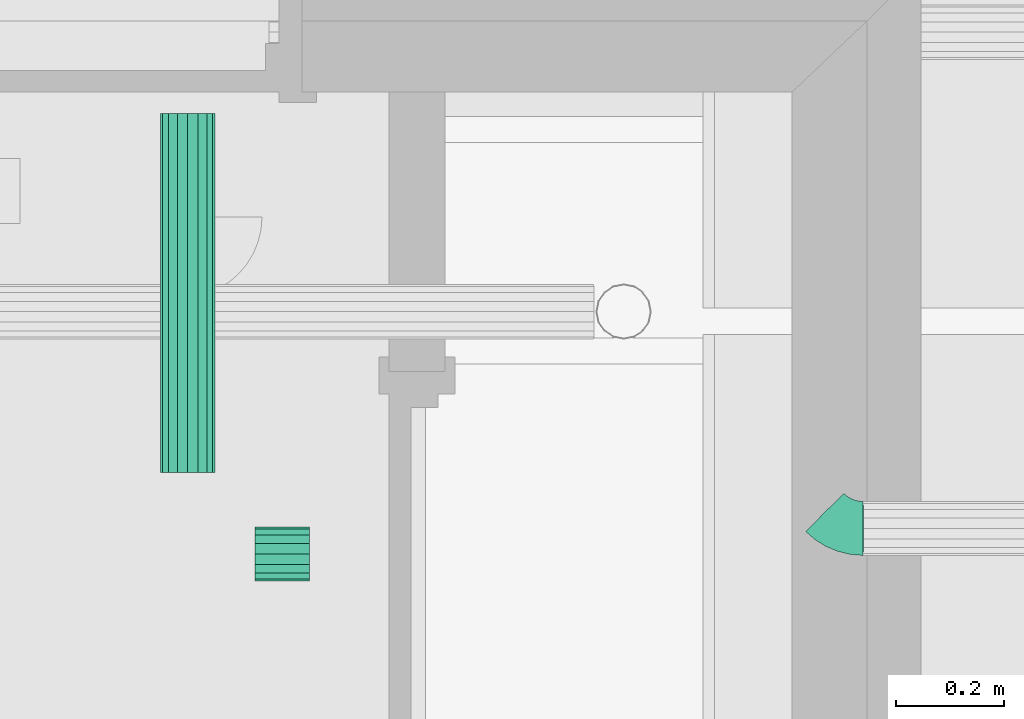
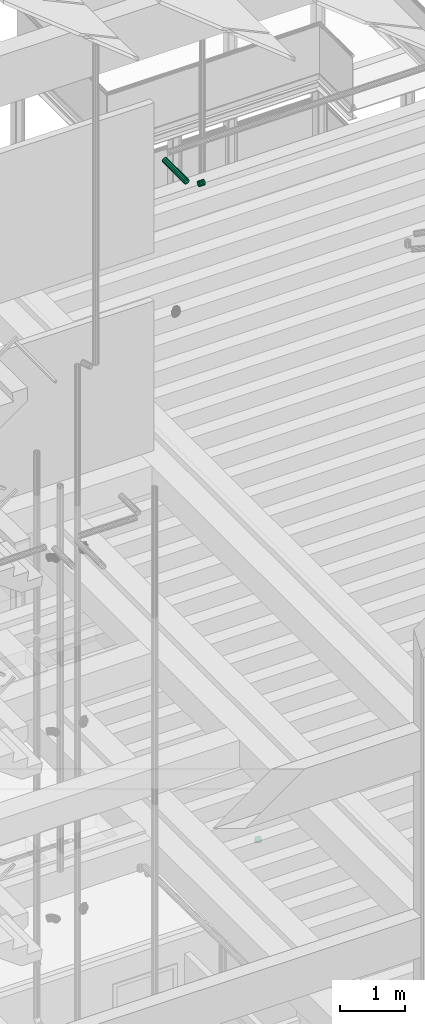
# One storey, part 95 of 106: 2 flow segments, 1 flow fitting.
"""IFC2X3 building model written with IfcOpenShell, lengths in metres."""

from ifc_helpers import new_model, entity, si_unit, converted_unit, derived_unit, money_unit, direction, frame, origin_with_axes, place, context, subcontext, project, spatial, open_shell, faceted_brep, surface_model, material, type_object, element, save


model = new_model("IFC2X3")

# Units and contexts
model_context = context("Model", 3, precision=1e-05, world=origin_with_axes(), true_north=direction((0.0, 1.0)))
body_context = subcontext(model_context, "Body", "Model", "MODEL_VIEW", scale=1.0)
ifc_project = project(units=[si_unit("LENGTHUNIT", "METRE"), si_unit("AREAUNIT", "SQUARE_METRE"), si_unit("VOLUMEUNIT", "CUBIC_METRE"), si_unit("ABSORBEDDOSEUNIT", "GRAY"), si_unit("AMOUNTOFSUBSTANCEUNIT", "MOLE"), si_unit("DOSEEQUIVALENTUNIT", "SIEVERT"), si_unit("ELECTRICCAPACITANCEUNIT", "FARAD"), si_unit("ELECTRICCHARGEUNIT", "COULOMB"), si_unit("ELECTRICCONDUCTANCEUNIT", "SIEMENS"), si_unit("ELECTRICCURRENTUNIT", "AMPERE"), si_unit("ELECTRICRESISTANCEUNIT", "OHM"), si_unit("ELECTRICVOLTAGEUNIT", "VOLT"), si_unit("ENERGYUNIT", "JOULE"), si_unit("FORCEUNIT", "NEWTON"), si_unit("FREQUENCYUNIT", "HERTZ"), si_unit("ILLUMINANCEUNIT", "LUX"), si_unit("INDUCTANCEUNIT", "HENRY"), si_unit("LUMINOUSFLUXUNIT", "LUMEN"), si_unit("LUMINOUSINTENSITYUNIT", "CANDELA"), si_unit("MAGNETICFLUXDENSITYUNIT", "TESLA"), si_unit("MAGNETICFLUXUNIT", "WEBER"), si_unit("MASSUNIT", "GRAM"), converted_unit("PLANEANGLEUNIT", "degree", entity("IfcReal", 0.0174532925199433), si_unit("PLANEANGLEUNIT", "RADIAN"), dimensions=[0, 0, 0, 0, 0, 0, 0]), si_unit("POWERUNIT", "WATT"), si_unit("PRESSUREUNIT", "PASCAL"), si_unit("RADIOACTIVITYUNIT", "BECQUEREL"), si_unit("SOLIDANGLEUNIT", "STERADIAN"), si_unit("THERMODYNAMICTEMPERATUREUNIT", "KELVIN"), si_unit("TIMEUNIT", "SECOND"), derived_unit("ACCELERATIONUNIT", [(si_unit("LENGTHUNIT", "METRE"), 1), (si_unit("TIMEUNIT", "SECOND"), -2)]), derived_unit("ANGULARVELOCITYUNIT", [(converted_unit("PLANEANGLEUNIT", "degree", entity("IfcReal", 0.0174532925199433), si_unit("PLANEANGLEUNIT", "RADIAN"), dimensions=[0, 0, 0, 0, 0, 0, 0]), 1), (si_unit("TIMEUNIT", "SECOND"), -1)]), derived_unit("CURVATUREUNIT", [(converted_unit("PLANEANGLEUNIT", "degree", entity("IfcReal", 0.0174532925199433), si_unit("PLANEANGLEUNIT", "RADIAN"), dimensions=[0, 0, 0, 0, 0, 0, 0]), 1), (si_unit("LENGTHUNIT", "METRE"), -1)]), derived_unit("DYNAMICVISCOSITYUNIT", [(si_unit("PRESSUREUNIT", "PASCAL"), 1), (si_unit("TIMEUNIT", "SECOND"), 1)]), derived_unit("HEATFLUXDENSITYUNIT", [(si_unit("POWERUNIT", "WATT"), 1), (si_unit("LENGTHUNIT", "METRE"), -2)]), derived_unit("HEATINGVALUEUNIT", [(si_unit("ENERGYUNIT", "JOULE"), 1), (si_unit("MASSUNIT", "GRAM"), -1)]), derived_unit("INTEGERCOUNTRATEUNIT", [(si_unit("TIMEUNIT", "SECOND"), -1)]), derived_unit("IONCONCENTRATIONUNIT", [(si_unit("MASSUNIT", "GRAM"), 1), (si_unit("VOLUMEUNIT", "CUBIC_METRE"), -1)]), derived_unit("ISOTHERMALMOISTURECAPACITYUNIT", [(si_unit("VOLUMEUNIT", "CUBIC_METRE"), 1), (si_unit("MASSUNIT", "GRAM"), -1)]), derived_unit("KINEMATICVISCOSITYUNIT", [(si_unit("AREAUNIT", "SQUARE_METRE"), 1), (si_unit("TIMEUNIT", "SECOND"), -1)]), derived_unit("LINEARFORCEUNIT", [(si_unit("FORCEUNIT", "NEWTON"), 1), (si_unit("LENGTHUNIT", "METRE"), -1)]), derived_unit("LINEARMOMENTUNIT", [(si_unit("FORCEUNIT", "NEWTON"), 1), (si_unit("LENGTHUNIT", "METRE"), -1)]), derived_unit("LINEARSTIFFNESSUNIT", [(si_unit("FORCEUNIT", "NEWTON"), 1), (si_unit("LENGTHUNIT", "METRE"), -1)]), derived_unit("LINEARVELOCITYUNIT", [(si_unit("LENGTHUNIT", "METRE"), 1), (si_unit("TIMEUNIT", "SECOND"), -1)]), derived_unit("LUMINOUSINTENSITYDISTRIBUTIONUNIT", [(si_unit("LUMINOUSINTENSITYUNIT", "CANDELA"), 1), (si_unit("LUMINOUSFLUXUNIT", "LUMEN"), -1)]), derived_unit("MASSDENSITYUNIT", [(si_unit("MASSUNIT", "GRAM"), 1), (si_unit("VOLUMEUNIT", "CUBIC_METRE"), -1)]), derived_unit("MASSFLOWRATEUNIT", [(si_unit("MASSUNIT", "GRAM"), 1), (si_unit("TIMEUNIT", "SECOND"), -1)]), derived_unit("MASSPERLENGTHUNIT", [(si_unit("MASSUNIT", "GRAM"), 1), (si_unit("LENGTHUNIT", "METRE"), -1)]), derived_unit("MODULUSOFELASTICITYUNIT", [(si_unit("FORCEUNIT", "NEWTON"), 1), (si_unit("AREAUNIT", "SQUARE_METRE"), -1)]), derived_unit("MODULUSOFLINEARSUBGRADEREACTIONUNIT", [(si_unit("FORCEUNIT", "NEWTON"), 1), (si_unit("LENGTHUNIT", "METRE"), -2)]), derived_unit("MODULUSOFROTATIONALSUBGRADEREACTIONUNIT", [(si_unit("FORCEUNIT", "NEWTON"), 1), (si_unit("LENGTHUNIT", "METRE"), 1)]), derived_unit("MODULUSOFSUBGRADEREACTIONUNIT", [(si_unit("FORCEUNIT", "NEWTON"), 1), (si_unit("VOLUMEUNIT", "CUBIC_METRE"), -1)]), derived_unit("MOISTUREDIFFUSIVITYUNIT", [(si_unit("VOLUMEUNIT", "CUBIC_METRE"), 1), (si_unit("TIMEUNIT", "SECOND"), -1)]), derived_unit("MOLECULARWEIGHTUNIT", [(si_unit("MASSUNIT", "GRAM"), 1), (si_unit("AMOUNTOFSUBSTANCEUNIT", "MOLE"), -1)]), derived_unit("PLANARFORCEUNIT", [(si_unit("FORCEUNIT", "NEWTON"), 1), (si_unit("LENGTHUNIT", "METRE"), -2)]), derived_unit("ROTATIONALFREQUENCYUNIT", [(si_unit("TIMEUNIT", "SECOND"), -1)]), derived_unit("ROTATIONALMASSUNIT", [(si_unit("MASSUNIT", "GRAM"), 1), (si_unit("LENGTHUNIT", "METRE"), 2)]), derived_unit("ROTATIONALSTIFFNESSUNIT", [(si_unit("FORCEUNIT", "NEWTON"), 1), (si_unit("LENGTHUNIT", "METRE"), 1), (converted_unit("PLANEANGLEUNIT", "degree", entity("IfcReal", 0.0174532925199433), si_unit("PLANEANGLEUNIT", "RADIAN"), dimensions=[0, 0, 0, 0, 0, 0, 0]), -1)]), derived_unit("SECTIONAREAINTEGRALUNIT", [(si_unit("LENGTHUNIT", "METRE"), 5)]), derived_unit("SECTIONMODULUSUNIT", [(si_unit("LENGTHUNIT", "METRE"), 3)]), derived_unit("SHEARMODULUSUNIT", [(si_unit("FORCEUNIT", "NEWTON"), 1), (si_unit("AREAUNIT", "SQUARE_METRE"), -1)]), derived_unit("SOUNDPOWERUNIT", [(si_unit("ENERGYUNIT", "JOULE"), 1), (si_unit("TIMEUNIT", "SECOND"), -1)]), derived_unit("SPECIFICHEATCAPACITYUNIT", [(si_unit("FORCEUNIT", "NEWTON"), 1), (si_unit("MASSUNIT", "GRAM"), -1), (si_unit("THERMODYNAMICTEMPERATUREUNIT", "KELVIN"), -1)]), derived_unit("TEMPERATUREGRADIENTUNIT", [(si_unit("THERMODYNAMICTEMPERATUREUNIT", "KELVIN"), 1), (si_unit("LENGTHUNIT", "METRE"), -1)]), derived_unit("THERMALADMITTANCEUNIT", [(si_unit("POWERUNIT", "WATT"), 1), (si_unit("AREAUNIT", "SQUARE_METRE"), -1), (si_unit("THERMODYNAMICTEMPERATUREUNIT", "KELVIN"), -1)]), derived_unit("THERMALCONDUCTANCEUNIT", [(si_unit("POWERUNIT", "WATT"), 1), (si_unit("LENGTHUNIT", "METRE"), -1), (si_unit("THERMODYNAMICTEMPERATUREUNIT", "KELVIN"), -1)]), derived_unit("THERMALEXPANSIONCOEFFICIENTUNIT", [(si_unit("THERMODYNAMICTEMPERATUREUNIT", "KELVIN"), -1)]), derived_unit("THERMALRESISTANCEUNIT", [(si_unit("AREAUNIT", "SQUARE_METRE"), 1), (si_unit("POWERUNIT", "WATT"), -1)]), derived_unit("THERMALTRANSMITTANCEUNIT", [(si_unit("POWERUNIT", "WATT"), 1), (si_unit("AREAUNIT", "SQUARE_METRE"), -1), (si_unit("THERMODYNAMICTEMPERATUREUNIT", "KELVIN"), -1)]), derived_unit("TORQUEUNIT", [(si_unit("FORCEUNIT", "NEWTON"), 1), (si_unit("LENGTHUNIT", "METRE"), 1)]), derived_unit("VAPORPERMEABILITYUNIT", [(si_unit("MASSUNIT", "GRAM"), 1), (si_unit("TIMEUNIT", "SECOND"), -1)]), derived_unit("VOLUMETRICFLOWRATEUNIT", [(si_unit("VOLUMEUNIT", "CUBIC_METRE"), 1), (si_unit("TIMEUNIT", "SECOND"), -1)]), derived_unit("WARPINGCONSTANTUNIT", [(si_unit("LENGTHUNIT", "METRE"), 6)]), derived_unit("WARPINGMOMENTUNIT", [(si_unit("FORCEUNIT", "NEWTON"), 1), (si_unit("LENGTHUNIT", "METRE"), 2)]), money_unit("GBP")], contexts=[model_context])

# Site, building, storey
site_placement = place(None, origin_with_axes())
site = spatial("IfcSite", under=ifc_project, at=site_placement, Name="Site", CompositionType="ELEMENT")
building_placement = place(site_placement, origin_with_axes())
building = spatial("IfcBuilding", under=site, at=building_placement, Name="Building01", CompositionType="ELEMENT")
storey_placement = place(building_placement, origin_with_axes())
storey = spatial("IfcBuildingStorey", under=building, at=storey_placement, Name="GF", CompositionType="ELEMENT", Elevation=0.0)

# Flow segments
ifc_material_1 = material(Name="M_BSUK_Ventilation")
duct_segment_type = type_object("IfcDuctSegmentType", Name="M-RoundDuct", PredefinedType="RIGIDSEGMENT")
flow_segment_1_placement = place(storey_placement, frame((18.174455, 8.069939, 17.28), z_axis=(0.0, 0.0, -1.0), x_axis=(1.0, 0.0, 0.0)))
element("IfcFlowSegment", 1, at=flow_segment_1_placement, inside=storey, type_object=duct_segment_type, material=ifc_material_1, Name="M-RoundDuct", ObjectType="M-RoundDuct", context=body_context, shape_type="Brep", body=[
    faceted_brep([(0.1, 0.0, -0.05), (0.0, 0.0, -0.05), (0.0, 0.019134, -0.046194), (0.1, 0.019134, -0.046194), (0.0, 0.035355, -0.035355), (0.1, 0.035355, -0.035355), (0.0, 0.046194, -0.019134), (0.1, 0.046194, -0.019134), (0.0, 0.05, 0.0), (0.1, 0.05, 0.0), (0.0, 0.046194, 0.019134), (0.1, 0.046194, 0.019134), (0.0, 0.035355, 0.035355), (0.1, 0.035355, 0.035355), (0.0, 0.019134, 0.046194), (0.1, 0.019134, 0.046194), (0.0, 0.0, 0.05), (0.1, 0.0, 0.05), (0.0, -0.019134, 0.046194), (0.1, -0.019134, 0.046194), (0.0, -0.035355, 0.035355), (0.1, -0.035355, 0.035355), (0.0, -0.046194, 0.019134), (0.1, -0.046194, 0.019134), (0.0, -0.05, 0.0), (0.1, -0.05, 0.0), (0.0, -0.046194, -0.019134), (0.1, -0.046194, -0.019134), (0.0, -0.035355, -0.035355), (0.1, -0.035355, -0.035355), (0.0, -0.019134, -0.046194), (0.1, -0.019134, -0.046194)], [[[0, 1, 2, 3]], [[3, 2, 4, 5]], [[5, 4, 6, 7]], [[7, 6, 8, 9]], [[9, 8, 10, 11]], [[11, 10, 12, 13]], [[13, 12, 14, 15]], [[15, 14, 16, 17]], [[17, 16, 18, 19]], [[19, 18, 20, 21]], [[21, 20, 22, 23]], [[23, 22, 24, 25]], [[25, 24, 26, 27]], [[27, 26, 28, 29]], [[29, 28, 30, 31]], [[31, 30, 1, 0]]]),
])
flow_segment_2_placement = place(storey_placement, frame((18.05, 8.219939, 17.28), z_axis=(0.0, 0.0, 1.0), x_axis=(0.0, 1.0, 0.0)))
element("IfcFlowSegment", 2, at=flow_segment_2_placement, inside=storey, type_object=duct_segment_type, material=ifc_material_1, Name="M-RoundDuct", ObjectType="M-RoundDuct", context=body_context, shape_type="Brep", body=[
    faceted_brep([(0.662619, 0.0, -0.05), (0.0, 0.0, -0.05), (0.0, 0.019134, -0.046194), (0.662619, 0.019134, -0.046194), (0.0, 0.035355, -0.035355), (0.662619, 0.035355, -0.035355), (0.0, 0.046194, -0.019134), (0.662619, 0.046194, -0.019134), (0.0, 0.05, 0.0), (0.662619, 0.05, 0.0), (0.0, 0.046194, 0.019134), (0.662619, 0.046194, 0.019134), (0.0, 0.035355, 0.035355), (0.662619, 0.035355, 0.035355), (0.0, 0.019134, 0.046194), (0.662619, 0.019134, 0.046194), (0.0, 0.0, 0.05), (0.662619, 0.0, 0.05), (0.0, -0.019134, 0.046194), (0.662619, -0.019134, 0.046194), (0.0, -0.035355, 0.035355), (0.662619, -0.035355, 0.035355), (0.0, -0.046194, 0.019134), (0.662619, -0.046194, 0.019134), (0.0, -0.05, 0.0), (0.662619, -0.05, 0.0), (0.0, -0.046194, -0.019134), (0.662619, -0.046194, -0.019134), (0.0, -0.035355, -0.035355), (0.662619, -0.035355, -0.035355), (0.0, -0.019134, -0.046194), (0.662619, -0.019134, -0.046194)], [[[0, 1, 2, 3]], [[3, 2, 4, 5]], [[5, 4, 6, 7]], [[7, 6, 8, 9]], [[9, 8, 10, 11]], [[11, 10, 12, 13]], [[13, 12, 14, 15]], [[15, 14, 16, 17]], [[17, 16, 18, 19]], [[19, 18, 20, 21]], [[21, 20, 22, 23]], [[23, 22, 24, 25]], [[25, 24, 26, 27]], [[27, 26, 28, 29]], [[29, 28, 30, 31]], [[31, 30, 1, 0]]]),
])

# Flow fitting
ifc_material_2 = material(Name="M_BSUK_ColdWater")
pipe_fitting_type = type_object("IfcPipeFittingType", Name="M-BmpElbow-DefaultElbow", PredefinedType="BEND")
flow_fitting_placement = place(storey_placement, frame((19.295951, 8.116912, 4.618016), z_axis=(-6.471e-05, -0.9999866, 0.00517679), x_axis=(-0.99992188, 0.0, -0.01249902)))
element("IfcFlowFitting", 3, at=flow_fitting_placement, inside=storey, type_object=pipe_fitting_type, material=ifc_material_2, Name="M-BmpElbow-DefaultElbow", ObjectType="M-BmpElbow-DefaultElbow", context=body_context, shape_type="SurfaceModel", body=[
    surface_model("IfcShellBasedSurfaceModel", [(0.008111, -0.01349, -0.048784), (0.0, -0.01349, -0.048146), (0.0, 0.0, -0.05), (0.007821, 0.0, -0.050615), (0.016023, -0.01349, -0.050683), (0.01545, 0.0, -0.052447), (0.023539, -0.01349, -0.053797), (0.022698, 0.0, -0.055449), (0.030477, -0.01349, -0.058048), (0.029387, 0.0, -0.059548), (0.036664, -0.01349, -0.063331), (0.035353, 0.0, -0.064642), (0.00896, -0.025979, -0.043426), (0.0, -0.025979, -0.042721), (0.017699, -0.025979, -0.045524), (0.026002, -0.025979, -0.048963), (0.033665, -0.025979, -0.053659), (0.0405, -0.025979, -0.059495), (0.010304, -0.036542, -0.034939), (0.0, -0.036542, -0.034128), (0.020354, -0.036542, -0.037351), (0.029903, -0.036542, -0.041306), (0.038716, -0.036542, -0.046706), (0.046576, -0.036542, -0.053418), (0.012044, -0.044394, -0.023951), (0.0, -0.044394, -0.023003), (0.023791, -0.044394, -0.026771), (0.034953, -0.044394, -0.031394), (0.045254, -0.044394, -0.037706), (0.054441, -0.044394, -0.045552), (0.014051, -0.048954, -0.011279), (0.0, -0.048954, -0.010173), (0.027756, -0.048954, -0.014569), (0.040778, -0.048954, -0.019962), (0.052795, -0.048954, -0.027326), (0.063513, -0.048954, -0.036478), (0.016176, -0.049883, 0.002139), (0.0, -0.049883, 0.003412), (0.031954, -0.049883, -0.001648), (0.046945, -0.049883, -0.007857), (0.06078, -0.049883, -0.016335), (0.073119, -0.049883, -0.026872), (0.018261, -0.047113, 0.015307), (0.0, -0.047113, 0.016744), (0.036073, -0.047113, 0.011031), (0.052997, -0.047113, 0.004022), (0.068616, -0.047113, -0.005549), (0.082545, -0.047113, -0.017444), (0.020152, -0.040848, 0.027248), (0.0, -0.040848, 0.028834), (0.039809, -0.040848, 0.022529), (0.058485, -0.040848, 0.014794), (0.075721, -0.040848, 0.004233), (0.091094, -0.040848, -0.008895), (0.021709, -0.031554, 0.037077), (0.0, -0.031554, 0.038786), (0.042884, -0.031554, 0.031994), (0.063003, -0.031554, 0.023661), (0.08157, -0.031554, 0.012284), (0.09813, -0.031554, -0.001857), (0.022816, -0.01992, 0.044065), (0.0, -0.01992, 0.045861), (0.04507, -0.01992, 0.038723), (0.066214, -0.01992, 0.029965), (0.085729, -0.01992, 0.018008), (0.103132, -0.01992, 0.003146), (0.02339, -0.006808, 0.047694), (0.0, -0.006808, 0.049534), (0.046205, -0.006808, 0.042217), (0.067882, -0.006808, 0.033239), (0.087888, -0.006808, 0.02098), (0.10573, -0.006808, 0.005744), (0.02339, 0.006808, 0.047694), (0.0, 0.006808, 0.049534), (0.046205, 0.006808, 0.042217), (0.067882, 0.006808, 0.033239), (0.087888, 0.006808, 0.02098), (0.10573, 0.006808, 0.005744), (0.022816, 0.01992, 0.044065), (0.0, 0.01992, 0.045861), (0.04507, 0.01992, 0.038723), (0.066214, 0.01992, 0.029965), (0.085729, 0.01992, 0.018008), (0.103132, 0.01992, 0.003146), (0.021709, 0.031554, 0.037077), (0.0, 0.031554, 0.038786), (0.042884, 0.031554, 0.031994), (0.063003, 0.031554, 0.023661), (0.08157, 0.031554, 0.012284), (0.09813, 0.031554, -0.001857), (0.020152, 0.040848, 0.027248), (0.0, 0.040848, 0.028834), (0.039809, 0.040848, 0.022529), (0.058485, 0.040848, 0.014794), (0.075721, 0.040848, 0.004233), (0.091094, 0.040848, -0.008895), (0.018261, 0.047113, 0.015307), (0.0, 0.047113, 0.016744), (0.036073, 0.047113, 0.011031), (0.052997, 0.047113, 0.004022), (0.068616, 0.047113, -0.005549), (0.082545, 0.047113, -0.017444), (0.016176, 0.049883, 0.002139), (0.0, 0.049883, 0.003412), (0.031954, 0.049883, -0.001648), (0.046945, 0.049883, -0.007857), (0.06078, 0.049883, -0.016335), (0.073119, 0.049883, -0.026872), (0.014051, 0.048954, -0.011279), (0.0, 0.048954, -0.010173), (0.027756, 0.048954, -0.014569), (0.040778, 0.048954, -0.019962), (0.052795, 0.048954, -0.027326), (0.063513, 0.048954, -0.036478), (0.012044, 0.044394, -0.023951), (0.0, 0.044394, -0.023003), (0.023791, 0.044394, -0.026771), (0.034953, 0.044394, -0.031394), (0.045254, 0.044394, -0.037706), (0.054441, 0.044394, -0.045552), (0.010304, 0.036542, -0.034939), (0.0, 0.036542, -0.034128), (0.020354, 0.036542, -0.037351), (0.029903, 0.036542, -0.041306), (0.038716, 0.036542, -0.046706), (0.046576, 0.036542, -0.053418), (0.00896, 0.025979, -0.043426), (0.0, 0.025979, -0.042721), (0.017699, 0.025979, -0.045524), (0.026002, 0.025979, -0.048963), (0.033665, 0.025979, -0.053659), (0.0405, 0.025979, -0.059495), (0.008111, 0.01349, -0.048784), (0.0, 0.01349, -0.048146), (0.016023, 0.01349, -0.050683), (0.023539, 0.01349, -0.053797), (0.030477, 0.01349, -0.058048), (0.036664, 0.01349, -0.063331)], [open_shell([[[0, 1, 2, 3]], [[4, 0, 3, 5]], [[6, 4, 5, 7]], [[8, 6, 7, 9]], [[10, 8, 9, 11]], [[12, 13, 1, 0]], [[14, 12, 0, 4]], [[15, 14, 4, 6]], [[16, 15, 6, 8]], [[17, 16, 8, 10]], [[18, 19, 13, 12]], [[20, 18, 12, 14]], [[21, 20, 14, 15]], [[22, 21, 15, 16]], [[23, 22, 16, 17]], [[24, 25, 19, 18]], [[26, 24, 18, 20]], [[27, 26, 20, 21]], [[28, 27, 21, 22]], [[29, 28, 22, 23]], [[30, 31, 25, 24]], [[32, 30, 24, 26]], [[33, 32, 26, 27]], [[34, 33, 27, 28]], [[35, 34, 28, 29]], [[36, 37, 31, 30]], [[38, 36, 30, 32]], [[39, 38, 32, 33]], [[40, 39, 33, 34]], [[41, 40, 34, 35]], [[42, 43, 37, 36]], [[44, 42, 36, 38]], [[45, 44, 38, 39]], [[46, 45, 39, 40]], [[47, 46, 40, 41]], [[48, 49, 43, 42]], [[50, 48, 42, 44]], [[51, 50, 44, 45]], [[52, 51, 45, 46]], [[53, 52, 46, 47]], [[54, 55, 49, 48]], [[56, 54, 48, 50]], [[57, 56, 50, 51]], [[58, 57, 51, 52]], [[59, 58, 52, 53]], [[60, 61, 55, 54]], [[62, 60, 54, 56]], [[63, 62, 56, 57]], [[64, 63, 57, 58]], [[65, 64, 58, 59]], [[66, 67, 61, 60]], [[68, 66, 60, 62]], [[69, 68, 62, 63]], [[70, 69, 63, 64]], [[71, 70, 64, 65]], [[72, 73, 67, 66]], [[74, 72, 66, 68]], [[75, 74, 68, 69]], [[76, 75, 69, 70]], [[77, 76, 70, 71]], [[78, 79, 73, 72]], [[80, 78, 72, 74]], [[81, 80, 74, 75]], [[82, 81, 75, 76]], [[83, 82, 76, 77]], [[84, 85, 79, 78]], [[86, 84, 78, 80]], [[87, 86, 80, 81]], [[88, 87, 81, 82]], [[89, 88, 82, 83]], [[90, 91, 85, 84]], [[92, 90, 84, 86]], [[93, 92, 86, 87]], [[94, 93, 87, 88]], [[95, 94, 88, 89]], [[96, 97, 91, 90]], [[98, 96, 90, 92]], [[99, 98, 92, 93]], [[100, 99, 93, 94]], [[101, 100, 94, 95]], [[102, 103, 97, 96]], [[104, 102, 96, 98]], [[105, 104, 98, 99]], [[106, 105, 99, 100]], [[107, 106, 100, 101]], [[108, 109, 103, 102]], [[110, 108, 102, 104]], [[111, 110, 104, 105]], [[112, 111, 105, 106]], [[113, 112, 106, 107]], [[114, 115, 109, 108]], [[116, 114, 108, 110]], [[117, 116, 110, 111]], [[118, 117, 111, 112]], [[119, 118, 112, 113]], [[120, 121, 115, 114]], [[122, 120, 114, 116]], [[123, 122, 116, 117]], [[124, 123, 117, 118]], [[125, 124, 118, 119]], [[126, 127, 121, 120]], [[128, 126, 120, 122]], [[129, 128, 122, 123]], [[130, 129, 123, 124]], [[131, 130, 124, 125]], [[132, 133, 127, 126]], [[134, 132, 126, 128]], [[135, 134, 128, 129]], [[136, 135, 129, 130]], [[137, 136, 130, 131]], [[3, 2, 133, 132]], [[5, 3, 132, 134]], [[7, 5, 134, 135]], [[9, 7, 135, 136]], [[11, 9, 136, 137]]])]),
])

save(model, "model.ifc")
